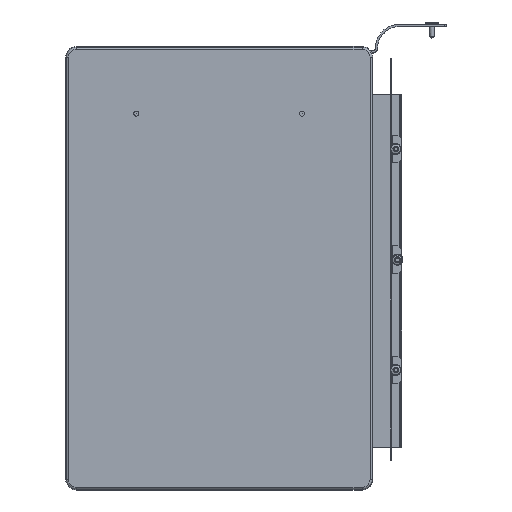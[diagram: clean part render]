
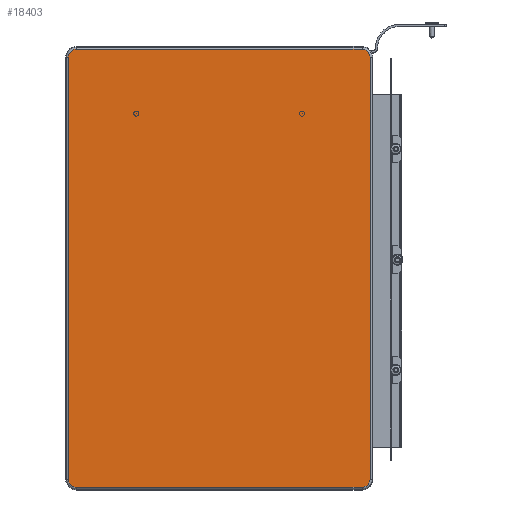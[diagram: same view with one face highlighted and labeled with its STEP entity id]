
A CAD part, top view. The second image highlights one B-rep face of the part: STEP entity #18403.
In plain terms, the highlighted planar face has unit normal (0, 0, 1).
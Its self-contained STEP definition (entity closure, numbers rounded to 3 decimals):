
#1771=CIRCLE('',#21016,7.248);
#1772=CIRCLE('',#21017,7.248);
#1773=CIRCLE('',#21018,7.248);
#1774=CIRCLE('',#21019,7.248);
#5858=ORIENTED_EDGE('',*,*,#9155,.T.);
#5859=ORIENTED_EDGE('',*,*,#9156,.T.);
#5860=ORIENTED_EDGE('',*,*,#9157,.T.);
#5861=ORIENTED_EDGE('',*,*,#9158,.T.);
#5862=ORIENTED_EDGE('',*,*,#9159,.T.);
#5863=ORIENTED_EDGE('',*,*,#9160,.T.);
#5864=ORIENTED_EDGE('',*,*,#9161,.T.);
#5865=ORIENTED_EDGE('',*,*,#9162,.T.);
#9155=EDGE_CURVE('',#11141,#11142,#1771,.T.);
#9156=EDGE_CURVE('',#11142,#11143,#12629,.F.);
#9157=EDGE_CURVE('',#11143,#11144,#1772,.T.);
#9158=EDGE_CURVE('',#11144,#11145,#12630,.F.);
#9159=EDGE_CURVE('',#11145,#11146,#1773,.T.);
#9160=EDGE_CURVE('',#11146,#11147,#12631,.F.);
#9161=EDGE_CURVE('',#11147,#11148,#1774,.T.);
#9162=EDGE_CURVE('',#11148,#11141,#12632,.F.);
#11141=VERTEX_POINT('',#31407);
#11142=VERTEX_POINT('',#31408);
#11143=VERTEX_POINT('',#31410);
#11144=VERTEX_POINT('',#31412);
#11145=VERTEX_POINT('',#31414);
#11146=VERTEX_POINT('',#31416);
#11147=VERTEX_POINT('',#31418);
#11148=VERTEX_POINT('',#31420);
#12629=LINE('',#31409,#13977);
#12630=LINE('',#31413,#13978);
#12631=LINE('',#31417,#13979);
#12632=LINE('',#31421,#13980);
#13977=VECTOR('',#25695,1000.);
#13978=VECTOR('',#25698,1000.);
#13979=VECTOR('',#25701,1000.);
#13980=VECTOR('',#25704,1000.);
#15268=EDGE_LOOP('',(#5858,#5859,#5860,#5861,#5862,#5863,#5864,#5865));
#16737=FACE_BOUND('',#15268,.T.);
#17599=PLANE('',#21015);
#18403=ADVANCED_FACE('',(#16737),#17599,.T.);
#21015=AXIS2_PLACEMENT_3D('',#31405,#25691,#25692);
#21016=AXIS2_PLACEMENT_3D('',#31406,#25693,#25694);
#21017=AXIS2_PLACEMENT_3D('',#31411,#25696,#25697);
#21018=AXIS2_PLACEMENT_3D('',#31415,#25699,#25700);
#21019=AXIS2_PLACEMENT_3D('',#31419,#25702,#25703);
#25691=DIRECTION('',(0.,0.,1.));
#25692=DIRECTION('',(1.,0.,0.));
#25693=DIRECTION('',(0.,0.,1.));
#25694=DIRECTION('',(1.,0.,0.));
#25695=DIRECTION('',(0.,-1.,0.));
#25696=DIRECTION('',(0.,0.,1.));
#25697=DIRECTION('',(1.,0.,0.));
#25698=DIRECTION('',(1.,0.,0.));
#25699=DIRECTION('',(0.,0.,1.));
#25700=DIRECTION('',(1.,0.,0.));
#25701=DIRECTION('',(0.,1.,0.));
#25702=DIRECTION('',(0.,0.,1.));
#25703=DIRECTION('',(1.,0.,0.));
#25704=DIRECTION('',(-1.,0.,0.));
#31405=CARTESIAN_POINT('',(-129.25,-191.,8.));
#31406=CARTESIAN_POINT('',(129.25,-191.,8.));
#31407=CARTESIAN_POINT('',(129.25,-198.248,8.));
#31408=CARTESIAN_POINT('',(136.498,-191.,8.));
#31409=CARTESIAN_POINT('',(136.498,191.,8.));
#31410=CARTESIAN_POINT('',(136.498,191.,8.));
#31411=CARTESIAN_POINT('',(129.25,191.,8.));
#31412=CARTESIAN_POINT('',(129.25,198.248,8.));
#31413=CARTESIAN_POINT('',(-129.25,198.248,8.));
#31414=CARTESIAN_POINT('',(-129.25,198.248,8.));
#31415=CARTESIAN_POINT('',(-129.25,191.,8.));
#31416=CARTESIAN_POINT('',(-136.498,191.,8.));
#31417=CARTESIAN_POINT('',(-136.498,-191.,8.));
#31418=CARTESIAN_POINT('',(-136.498,-191.,8.));
#31419=CARTESIAN_POINT('',(-129.25,-191.,8.));
#31420=CARTESIAN_POINT('',(-129.25,-198.248,8.));
#31421=CARTESIAN_POINT('',(129.25,-198.248,8.));
